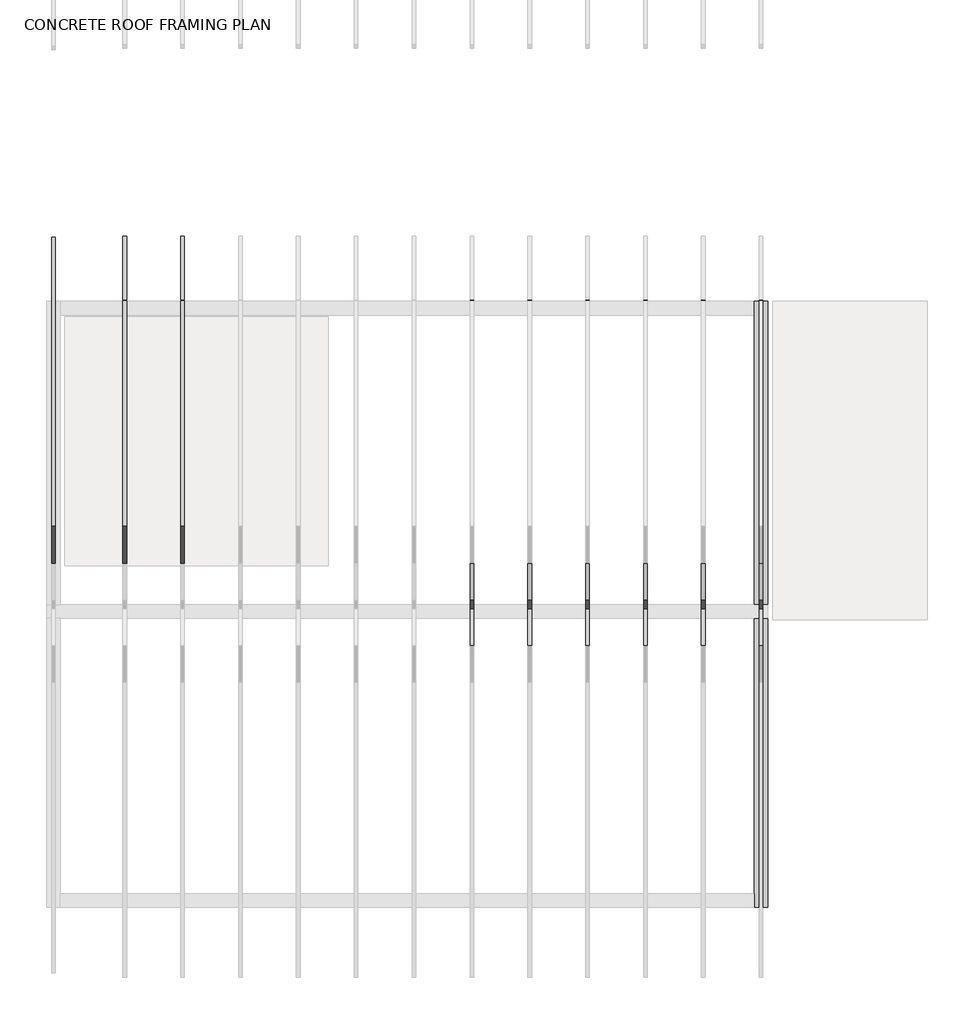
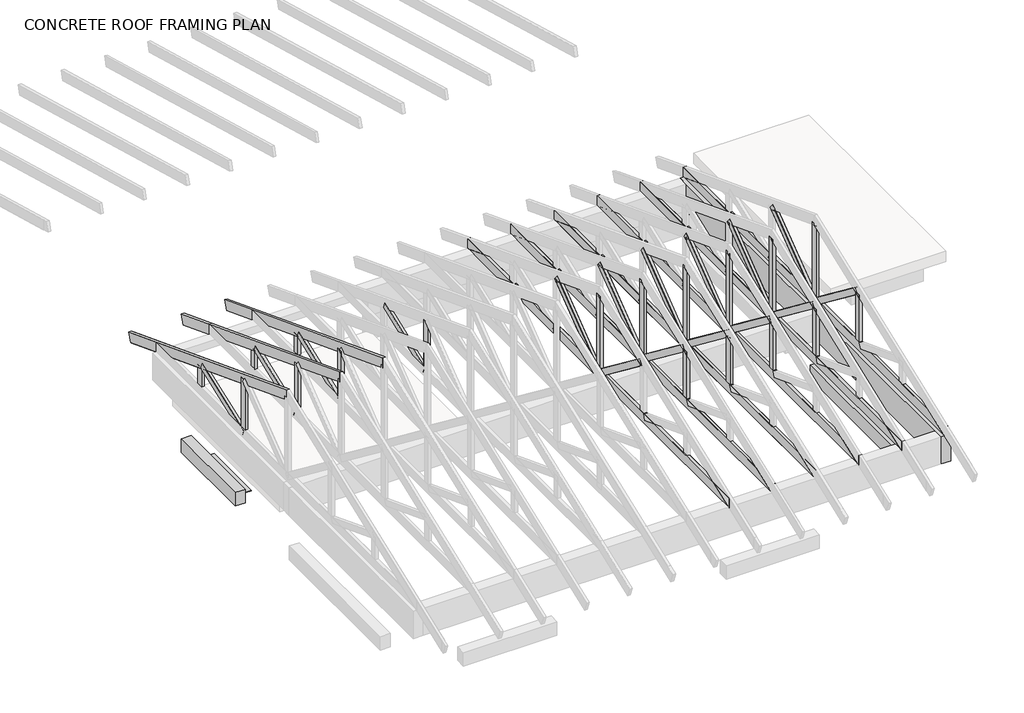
# One storey, part 4 of 6: 47 beams.
"""IFC4 building model written with IfcOpenShell, lengths in millimetres."""

from ifc_helpers import new_model, si_unit, frame, origin, place, context, project, spatial, polyline, outline, extrude, faceted_brep, element, save

model = new_model("IFC4")

# Units and contexts
model_context = context("Model", 3, world=origin())
ifc_project = project(units=[si_unit("LENGTHUNIT", "METRE", prefix="MILLI")], contexts=[model_context])

# Site, building, storey
site = spatial("IfcSite", under=ifc_project)
building = spatial("IfcBuilding", under=site)
storey = spatial("IfcBuildingStorey", under=building, Name="CONCRETE ROOF FRAMING PLAN", Elevation=3048.0)

# Beams
placement = place(None, origin())
element("IfcBeam", 1, ObjectType="Concrete-Rectangular Beam : 5 5/8 x 16", at=placement, inside=storey, context=model_context, shape_type="SweptSolid", body=[
    extrude(outline(polyline([(346.075, 5467.3499888), (346.075, 4552.9499888), (203.2, 4552.9499888), (203.2, 5467.3499888), (346.075, 5467.3499888)])), frame((0.0, 0.0, 2133.6), z_axis=(0.0, 0.0, 1.0), x_axis=(1.0, 0.0, 0.0)), (0.0, 0.0, 1.0), 2.0092442),
])
element("IfcBeam", 2, ObjectType="Concrete-Rectangular Beam : 5 5/8 x 16", at=placement, inside=storey, context=model_context, shape_type="Brep", body=[
    faceted_brep([(7467.6, 9.525, 3200.4), (7610.475, 9.525, 3200.4), (7610.475, 3052.7625, 3200.4), (7467.6, 3052.7625, 3200.4), (7467.6, 152.4, 3200.4), (7467.6, 9.525, 2794.0), (7467.6, 3052.7625, 2794.0), (7467.6, 152.4, 2794.0), (7610.475, 9.525, 2794.0), (7610.475, 3052.7625, 2794.0)], [[[0, 1, 2, 3, 4]], [[5, 0, 4, 3, 6, 7]], [[8, 5, 7, 6, 9]], [[1, 8, 9, 2]], [[1, 0, 5, 8]], [[3, 2, 9, 6]]]),
    faceted_brep([(7467.6, 6248.4, 3098.8), (7610.475, 6248.4, 3098.8), (7610.475, 6248.4, 2794.0), (7467.6, 6248.4, 2794.0), (7467.6, 6391.275, 3200.4), (7610.475, 6391.275, 3200.4), (7610.475, 6391.275, 3098.8), (7467.6, 6391.275, 3098.8), (7610.475, 3195.6375, 3200.4), (7467.6, 3195.6375, 3200.4), (7467.6, 3195.6375, 2794.0), (7610.475, 3195.6375, 2794.0), (7467.6, 6248.4, 3200.4)], [[[0, 1, 2, 3]], [[4, 5, 6, 7]], [[1, 0, 7, 6]], [[8, 9, 10, 11]], [[5, 4, 12, 9, 8]], [[4, 7, 0, 3, 10, 9, 12]], [[3, 2, 11, 10]], [[6, 5, 8, 11, 2, 1]]]),
])
element("IfcBeam", 3, ObjectType="Concrete-Rectangular Beam : 5 5/8 x 8", at=placement, inside=storey, context=model_context, shape_type="SweptSolid", body=[
    extrude(outline(polyline([(152.4, 4368.8), (9.525, 4368.8), (9.525, 5689.6), (152.4, 5689.6), (152.4, 4368.8)])), frame((0.0, 0.0, 2133.6), z_axis=(0.0, 0.0, 1.0), x_axis=(1.0, 0.0, 0.0)), (0.0, 0.0, 1.0), 203.2),
])
element("IfcBeam", 4, ObjectType="Concrete-Rectangular Beam : 5 5/8 x 8", at=placement, inside=storey, context=model_context, shape_type="SweptSolid", body=[
    extrude(outline(polyline([(7610.475, 1071.5625), (7467.6, 1071.5625), (7467.6, 3205.1625), (7610.475, 3205.1625), (7610.475, 1071.5625)])), frame((0.0, 0.0, 2133.6), z_axis=(0.0, 0.0, 1.0), x_axis=(1.0, 0.0, 0.0)), (0.0, 0.0, 1.0), 203.2),
])
element("IfcBeam", 5, ObjectType="Dimension Lumber : 2x4", at=placement, inside=storey, context=model_context, shape_type="SweptSolid", body=[
    extrude(outline(polyline([(61.9125, 4217.9874888), (61.9125, 4306.8874888), (100.0125, 4306.8874888), (100.0125, 4217.9874888), (61.9125, 4217.9874888)])), frame((0.0, 0.0, 3340.1), z_axis=(0.0, 0.0, 1.0), x_axis=(1.0, 0.0, 0.0)), (0.0, 0.0, 1.0), 742.95),
    extrude(outline(polyline([(4306.8874888, 3991.2909709), (4306.8874888, 3340.1), (4217.9874888, 3340.1), (4217.9874888, 4025.2587321), (4306.8874888, 3991.2909709)])), frame((61.9125, 0.0, 0.0), z_axis=(1.0, 0.0, 0.0), x_axis=(0.0, 1.0, 0.0)), (0.0, 0.0, 1.0), 38.1),
])
element("IfcBeam", 6, ObjectType="Dimension Lumber : 2x4", at=placement, inside=storey, context=model_context, shape_type="SweptSolid", body=[
    extrude(outline(polyline([(61.9125, 5281.6124888), (61.9125, 5370.5124888), (100.0125, 5370.5124888), (100.0125, 5281.6124888), (61.9125, 5281.6124888)])), frame((0.0, 0.0, 3340.1), z_axis=(0.0, 0.0, 1.0), x_axis=(1.0, 0.0, 0.0)), (0.0, 0.0, 1.0), 288.9658146),
    extrude(outline(polyline([(5370.5124888, 3584.8909709), (5370.5124888, 3340.1), (5281.6124888, 3340.1), (5281.6124888, 3618.8587321), (5370.5124888, 3584.8909709)])), frame((61.9125, 0.0, 0.0), z_axis=(1.0, 0.0, 0.0), x_axis=(0.0, 1.0, 0.0)), (0.0, 0.0, 1.0), 38.1),
])
element("IfcBeam", 7, ObjectType="Dimension Lumber : 2x4", at=placement, inside=storey, context=model_context, shape_type="SweptSolid", body=[
    extrude(outline(polyline([(0.0, -38.1), (0.0, 0.0), (1091.0373938, 0.0), (1091.0373938, -38.1), (0.0, -38.1)])), frame((61.9125, 4278.3027071, 3228.7277488), z_axis=(0.0, -0.3569227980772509, 0.934133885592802), x_axis=(0.0, 0.934133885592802, 0.3569227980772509)), (0.0, 0.0, 1.0), 88.9),
    extrude(outline(polyline([(4320.7113004, 3340.1), (5265.7472704, 3701.1883706), (5297.4777071, 3618.1438682), (4569.7847709, 3340.1), (4320.7113004, 3340.1)])), frame((61.9125, 0.0, 0.0), z_axis=(1.0, 0.0, 0.0), x_axis=(0.0, 1.0, 0.0)), (0.0, 0.0, 1.0), 38.1),
    extrude(outline(polyline([(4320.7113004, 3340.1), (5165.9438292, 3663.0545185), (5290.4805644, 3615.4703331), (4569.7847709, 3340.1), (4320.7113004, 3340.1)])), frame((61.9125, 0.0, 0.0), z_axis=(1.0, 0.0, 0.0), x_axis=(0.0, 1.0, 0.0)), (0.0, 0.0, 1.0), 38.1),
])
element("IfcBeam", 8, ObjectType="Dimension Lumber : 2x4", at=placement, inside=storey, context=model_context, shape_type="SweptSolid", body=[
    extrude(outline(polyline([(7519.9875, 3154.3624888), (7519.9875, 3243.2624888), (7558.0875, 3243.2624888), (7558.0875, 3154.3624888), (7519.9875, 3154.3624888)])), frame((0.0, 0.0, 3308.7927893), z_axis=(0.0, 0.0, 1.0), x_axis=(1.0, 0.0, 0.0)), (0.0, 0.0, 1.0), 1133.0716475),
    extrude(outline(polyline([(3243.2624888, 4397.6909709), (3243.2624888, 3308.7927893), (3154.3624888, 3308.7927893), (3154.3624888, 4431.6587321), (3243.2624888, 4397.6909709)])), frame((7519.9875, 0.0, 0.0), z_axis=(1.0, 0.0, 0.0), x_axis=(0.0, 1.0, 0.0)), (0.0, 0.0, 1.0), 38.1),
    extrude(outline(polyline([(3243.2624888, 4397.6909709), (3243.2624888, 3308.7927893), (3154.3624888, 3308.7927893), (3154.3624888, 4397.6909709), (3198.8124888, 4414.6748515), (3243.2624888, 4397.6909709)])), frame((7519.9875, 0.0, 0.0), z_axis=(1.0, 0.0, 0.0), x_axis=(0.0, 1.0, 0.0)), (0.0, 0.0, 1.0), 38.1),
    extrude(outline(polyline([(3243.2624888, 4397.6909709), (3243.2624888, 3340.1), (3154.3624888, 3340.1), (3154.3624888, 4397.6909709), (3198.8124888, 4414.6748515), (3243.2624888, 4397.6909709)])), frame((7519.9875, 0.0, 0.0), z_axis=(1.0, 0.0, 0.0), x_axis=(0.0, 1.0, 0.0)), (0.0, 0.0, 1.0), 38.1),
])
element("IfcBeam", 9, ObjectType="Dimension Lumber : 2x4", at=placement, inside=storey, context=model_context, shape_type="SweptSolid", body=[
    extrude(outline(polyline([(7519.9875, 2090.7374888), (7519.9875, 2179.6374888), (7558.0875, 2179.6374888), (7558.0875, 2090.7374888), (7519.9875, 2090.7374888)])), frame((0.0, 0.0, 3340.1), z_axis=(0.0, 0.0, 1.0), x_axis=(1.0, 0.0, 0.0)), (0.0, 0.0, 1.0), 702.294826),
    extrude(outline(polyline([(2179.6374888, 4025.2587321), (2179.6374888, 3340.1), (2090.7374888, 3340.1), (2090.7374888, 3991.2909709), (2179.6374888, 4025.2587321)])), frame((7519.9875, 0.0, 0.0), z_axis=(1.0, 0.0, 0.0), x_axis=(0.0, 1.0, 0.0)), (0.0, 0.0, 1.0), 38.1),
])
element("IfcBeam", 10, ObjectType="Dimension Lumber : 2x4", at=placement, inside=storey, context=model_context, shape_type="SweptSolid", body=[
    extrude(outline(polyline([(0.0, -38.1), (0.0, 0.0), (1268.1063806, 0.0), (1268.1063806, -38.1), (0.0, -38.1)])), frame((7519.9875, 3262.4051884, 3262.9032833), z_axis=(0.0, -0.6071859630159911, 0.7945597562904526), x_axis=(0.0, 0.7945597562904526, 0.6071859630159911)), (0.0, 0.0, 1.0), 88.9),
    extrude(outline(polyline([(3262.4051884, 3262.9032833), (3208.4263563, 3333.5396456), (4148.3995827, 4051.847544), (4246.0083389, 4014.552258), (3262.4051884, 3262.9032833)])), frame((7519.9875, 0.0, 0.0), z_axis=(1.0, 0.0, 0.0), x_axis=(0.0, 1.0, 0.0)), (0.0, 0.0, 1.0), 38.1),
    extrude(outline(polyline([(3217.011195, 3340.1), (4148.3995827, 4051.847544), (4246.0083389, 4014.552258), (3363.4243294, 3340.1), (3217.011195, 3340.1)])), frame((7519.9875, 0.0, 0.0), z_axis=(1.0, 0.0, 0.0), x_axis=(0.0, 1.0, 0.0)), (0.0, 0.0, 1.0), 38.1),
])
element("IfcBeam", 11, ObjectType="Dimension Lumber : 2x4", at=placement, inside=storey, context=model_context, shape_type="SweptSolid", body=[
    extrude(outline(polyline([(0.0, -38.1), (0.0, 0.0), (1278.704905, 0.0), (1278.704905, -38.1), (0.0, -38.1)])), frame((7519.9875, 2137.2208186, 4025.5532429), z_axis=(0.0, 0.6071859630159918, 0.7945597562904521), x_axis=(0.0, 0.7945597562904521, -0.6071859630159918)), (0.0, 0.0, 1.0), 88.9),
    extrude(outline(polyline([(2249.2253949, 4051.847544), (3207.2071084, 3319.7779361), (3153.2282763, 3249.1415737), (2151.6166386, 4014.552258), (2249.2253949, 4051.847544)])), frame((7519.9875, 0.0, 0.0), z_axis=(1.0, 0.0, 0.0), x_axis=(0.0, 1.0, 0.0)), (0.0, 0.0, 1.0), 38.1),
    extrude(outline(polyline([(2249.2253949, 4051.847544), (3180.6137825, 3340.1), (3034.2006481, 3340.1), (2151.6166386, 4014.552258), (2249.2253949, 4051.847544)])), frame((7519.9875, 0.0, 0.0), z_axis=(1.0, 0.0, 0.0), x_axis=(0.0, 1.0, 0.0)), (0.0, 0.0, 1.0), 38.1),
])
element("IfcBeam", 12, ObjectType="Dimension Lumber : 2x4", at=placement, inside=storey, context=model_context, shape_type="SweptSolid", body=[
    extrude(outline(polyline([(6910.3875, 3154.3624888), (6910.3875, 3243.2624888), (6948.4875, 3243.2624888), (6948.4875, 3154.3624888), (6910.3875, 3154.3624888)])), frame((0.0, 0.0, 3308.7927893), z_axis=(0.0, 0.0, 1.0), x_axis=(1.0, 0.0, 0.0)), (0.0, 0.0, 1.0), 1133.0716475),
    extrude(outline(polyline([(3243.2624888, 4397.6909709), (3243.2624888, 3308.7927893), (3154.3624888, 3308.7927893), (3154.3624888, 4431.6587321), (3243.2624888, 4397.6909709)])), frame((6910.3875, 0.0, 0.0), z_axis=(1.0, 0.0, 0.0), x_axis=(0.0, 1.0, 0.0)), (0.0, 0.0, 1.0), 38.1),
    extrude(outline(polyline([(3243.2624888, 4397.6909709), (3243.2624888, 3308.7927893), (3154.3624888, 3308.7927893), (3154.3624888, 4397.6909709), (3198.8124888, 4414.6748515), (3243.2624888, 4397.6909709)])), frame((6910.3875, 0.0, 0.0), z_axis=(1.0, 0.0, 0.0), x_axis=(0.0, 1.0, 0.0)), (0.0, 0.0, 1.0), 38.1),
    extrude(outline(polyline([(3243.2624888, 4397.6909709), (3243.2624888, 3340.1), (3154.3624888, 3340.1), (3154.3624888, 4397.6909709), (3198.8124888, 4414.6748515), (3243.2624888, 4397.6909709)])), frame((6910.3875, 0.0, 0.0), z_axis=(1.0, 0.0, 0.0), x_axis=(0.0, 1.0, 0.0)), (0.0, 0.0, 1.0), 38.1),
])
element("IfcBeam", 13, ObjectType="Dimension Lumber : 2x4", at=placement, inside=storey, context=model_context, shape_type="SweptSolid", body=[
    extrude(outline(polyline([(6910.3875, 2090.7374888), (6910.3875, 2179.6374888), (6948.4875, 2179.6374888), (6948.4875, 2090.7374888), (6910.3875, 2090.7374888)])), frame((0.0, 0.0, 3340.1), z_axis=(0.0, 0.0, 1.0), x_axis=(1.0, 0.0, 0.0)), (0.0, 0.0, 1.0), 702.294826),
    extrude(outline(polyline([(2179.6374888, 4025.2587321), (2179.6374888, 3340.1), (2090.7374888, 3340.1), (2090.7374888, 3991.2909709), (2179.6374888, 4025.2587321)])), frame((6910.3875, 0.0, 0.0), z_axis=(1.0, 0.0, 0.0), x_axis=(0.0, 1.0, 0.0)), (0.0, 0.0, 1.0), 38.1),
])
element("IfcBeam", 14, ObjectType="Dimension Lumber : 2x4", at=placement, inside=storey, context=model_context, shape_type="SweptSolid", body=[
    extrude(outline(polyline([(0.0, -38.1), (0.0, 0.0), (1268.1063806, 0.0), (1268.1063806, -38.1), (0.0, -38.1)])), frame((6910.3875, 3262.4051884, 3262.9032833), z_axis=(0.0, -0.6071859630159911, 0.7945597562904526), x_axis=(0.0, 0.7945597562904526, 0.6071859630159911)), (0.0, 0.0, 1.0), 88.9),
    extrude(outline(polyline([(3217.011195, 3340.1), (4216.012653, 4103.5160396), (4269.9914851, 4032.8796772), (3363.4243294, 3340.1), (3217.011195, 3340.1)])), frame((6910.3875, 0.0, 0.0), z_axis=(1.0, 0.0, 0.0), x_axis=(0.0, 1.0, 0.0)), (0.0, 0.0, 1.0), 38.1),
    extrude(outline(polyline([(3217.011195, 3340.1), (4148.3995827, 4051.847544), (4246.0083389, 4014.552258), (3363.4243294, 3340.1), (3217.011195, 3340.1)])), frame((6910.3875, 0.0, 0.0), z_axis=(1.0, 0.0, 0.0), x_axis=(0.0, 1.0, 0.0)), (0.0, 0.0, 1.0), 38.1),
])
element("IfcBeam", 15, ObjectType="Dimension Lumber : 2x4", at=placement, inside=storey, context=model_context, shape_type="SweptSolid", body=[
    extrude(outline(polyline([(0.0, -38.1), (0.0, 0.0), (1278.704905, 0.0), (1278.704905, -38.1), (0.0, -38.1)])), frame((6910.3875, 2137.2208186, 4025.5532429), z_axis=(0.0, 0.6071859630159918, 0.7945597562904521), x_axis=(0.0, 0.7945597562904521, -0.6071859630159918)), (0.0, 0.0, 1.0), 88.9),
    extrude(outline(polyline([(2249.2253949, 4051.847544), (3207.2071084, 3319.7779361), (3153.2282763, 3249.1415737), (2151.6166386, 4014.552258), (2249.2253949, 4051.847544)])), frame((6910.3875, 0.0, 0.0), z_axis=(1.0, 0.0, 0.0), x_axis=(0.0, 1.0, 0.0)), (0.0, 0.0, 1.0), 38.1),
    extrude(outline(polyline([(2249.2253949, 4051.847544), (3180.6137825, 3340.1), (3034.2006481, 3340.1), (2151.6166386, 4014.552258), (2249.2253949, 4051.847544)])), frame((6910.3875, 0.0, 0.0), z_axis=(1.0, 0.0, 0.0), x_axis=(0.0, 1.0, 0.0)), (0.0, 0.0, 1.0), 38.1),
])
element("IfcBeam", 16, ObjectType="Dimension Lumber : 2x4", at=placement, inside=storey, context=model_context, shape_type="SweptSolid", body=[
    extrude(outline(polyline([(6300.7875, 3154.3624888), (6300.7875, 3243.2624888), (6338.8875, 3243.2624888), (6338.8875, 3154.3624888), (6300.7875, 3154.3624888)])), frame((0.0, 0.0, 3308.7927893), z_axis=(0.0, 0.0, 1.0), x_axis=(1.0, 0.0, 0.0)), (0.0, 0.0, 1.0), 1133.0716475),
    extrude(outline(polyline([(3243.2624888, 4397.6909709), (3243.2624888, 3308.7927893), (3154.3624888, 3308.7927893), (3154.3624888, 4431.6587321), (3243.2624888, 4397.6909709)])), frame((6300.7875, 0.0, 0.0), z_axis=(1.0, 0.0, 0.0), x_axis=(0.0, 1.0, 0.0)), (0.0, 0.0, 1.0), 38.1),
    extrude(outline(polyline([(3243.2624888, 4397.6909709), (3243.2624888, 3308.7927893), (3154.3624888, 3308.7927893), (3154.3624888, 4397.6909709), (3198.8124888, 4414.6748515), (3243.2624888, 4397.6909709)])), frame((6300.7875, 0.0, 0.0), z_axis=(1.0, 0.0, 0.0), x_axis=(0.0, 1.0, 0.0)), (0.0, 0.0, 1.0), 38.1),
    extrude(outline(polyline([(3243.2624888, 4397.6909709), (3243.2624888, 3340.1), (3154.3624888, 3340.1), (3154.3624888, 4397.6909709), (3198.8124888, 4414.6748515), (3243.2624888, 4397.6909709)])), frame((6300.7875, 0.0, 0.0), z_axis=(1.0, 0.0, 0.0), x_axis=(0.0, 1.0, 0.0)), (0.0, 0.0, 1.0), 38.1),
])
element("IfcBeam", 17, ObjectType="Dimension Lumber : 2x4", at=placement, inside=storey, context=model_context, shape_type="SweptSolid", body=[
    extrude(outline(polyline([(6300.7875, 2090.7374888), (6300.7875, 2179.6374888), (6338.8875, 2179.6374888), (6338.8875, 2090.7374888), (6300.7875, 2090.7374888)])), frame((0.0, 0.0, 3340.1), z_axis=(0.0, 0.0, 1.0), x_axis=(1.0, 0.0, 0.0)), (0.0, 0.0, 1.0), 702.294826),
    extrude(outline(polyline([(2179.6374888, 4025.2587321), (2179.6374888, 3340.1), (2090.7374888, 3340.1), (2090.7374888, 3991.2909709), (2179.6374888, 4025.2587321)])), frame((6300.7875, 0.0, 0.0), z_axis=(1.0, 0.0, 0.0), x_axis=(0.0, 1.0, 0.0)), (0.0, 0.0, 1.0), 38.1),
])
element("IfcBeam", 18, ObjectType="Dimension Lumber : 2x4", at=placement, inside=storey, context=model_context, shape_type="SweptSolid", body=[
    extrude(outline(polyline([(0.0, -38.1), (0.0, 0.0), (1268.1063806, 0.0), (1268.1063806, -38.1), (0.0, -38.1)])), frame((6300.7875, 3262.4051884, 3262.9032833), z_axis=(0.0, -0.6071859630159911, 0.7945597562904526), x_axis=(0.0, 0.7945597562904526, 0.6071859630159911)), (0.0, 0.0, 1.0), 88.9),
    extrude(outline(polyline([(3217.011195, 3340.1), (4216.012653, 4103.5160396), (4269.9914851, 4032.8796772), (3363.4243294, 3340.1), (3217.011195, 3340.1)])), frame((6300.7875, 0.0, 0.0), z_axis=(1.0, 0.0, 0.0), x_axis=(0.0, 1.0, 0.0)), (0.0, 0.0, 1.0), 38.1),
    extrude(outline(polyline([(3217.011195, 3340.1), (4148.3995827, 4051.847544), (4246.0083389, 4014.552258), (3363.4243294, 3340.1), (3217.011195, 3340.1)])), frame((6300.7875, 0.0, 0.0), z_axis=(1.0, 0.0, 0.0), x_axis=(0.0, 1.0, 0.0)), (0.0, 0.0, 1.0), 38.1),
])
element("IfcBeam", 19, ObjectType="Dimension Lumber : 2x4", at=placement, inside=storey, context=model_context, shape_type="SweptSolid", body=[
    extrude(outline(polyline([(0.0, -38.1), (0.0, 0.0), (1278.704905, 0.0), (1278.704905, -38.1), (0.0, -38.1)])), frame((6300.7875, 2137.2208186, 4025.5532429), z_axis=(0.0, 0.6071859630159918, 0.7945597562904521), x_axis=(0.0, 0.7945597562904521, -0.6071859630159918)), (0.0, 0.0, 1.0), 88.9),
    extrude(outline(polyline([(2249.2253949, 4051.847544), (3207.2071084, 3319.7779361), (3153.2282763, 3249.1415737), (2151.6166386, 4014.552258), (2249.2253949, 4051.847544)])), frame((6300.7875, 0.0, 0.0), z_axis=(1.0, 0.0, 0.0), x_axis=(0.0, 1.0, 0.0)), (0.0, 0.0, 1.0), 38.1),
    extrude(outline(polyline([(2249.2253949, 4051.847544), (3180.6137825, 3340.1), (3034.2006481, 3340.1), (2151.6166386, 4014.552258), (2249.2253949, 4051.847544)])), frame((6300.7875, 0.0, 0.0), z_axis=(1.0, 0.0, 0.0), x_axis=(0.0, 1.0, 0.0)), (0.0, 0.0, 1.0), 38.1),
])
element("IfcBeam", 20, ObjectType="Dimension Lumber : 2x4", at=placement, inside=storey, context=model_context, shape_type="SweptSolid", body=[
    extrude(outline(polyline([(5691.1875, 3154.3624888), (5691.1875, 3243.2624888), (5729.2875, 3243.2624888), (5729.2875, 3154.3624888), (5691.1875, 3154.3624888)])), frame((0.0, 0.0, 3308.7927893), z_axis=(0.0, 0.0, 1.0), x_axis=(1.0, 0.0, 0.0)), (0.0, 0.0, 1.0), 1133.0716475),
    extrude(outline(polyline([(3243.2624888, 4397.6909709), (3243.2624888, 3308.7927893), (3154.3624888, 3308.7927893), (3154.3624888, 4431.6587321), (3243.2624888, 4397.6909709)])), frame((5691.1875, 0.0, 0.0), z_axis=(1.0, 0.0, 0.0), x_axis=(0.0, 1.0, 0.0)), (0.0, 0.0, 1.0), 38.1),
    extrude(outline(polyline([(3243.2624888, 4397.6909709), (3243.2624888, 3308.7927893), (3154.3624888, 3308.7927893), (3154.3624888, 4397.6909709), (3198.8124888, 4414.6748515), (3243.2624888, 4397.6909709)])), frame((5691.1875, 0.0, 0.0), z_axis=(1.0, 0.0, 0.0), x_axis=(0.0, 1.0, 0.0)), (0.0, 0.0, 1.0), 38.1),
    extrude(outline(polyline([(3243.2624888, 4397.6909709), (3243.2624888, 3340.1), (3154.3624888, 3340.1), (3154.3624888, 4397.6909709), (3198.8124888, 4414.6748515), (3243.2624888, 4397.6909709)])), frame((5691.1875, 0.0, 0.0), z_axis=(1.0, 0.0, 0.0), x_axis=(0.0, 1.0, 0.0)), (0.0, 0.0, 1.0), 38.1),
])
element("IfcBeam", 21, ObjectType="Dimension Lumber : 2x4", at=placement, inside=storey, context=model_context, shape_type="SweptSolid", body=[
    extrude(outline(polyline([(5691.1875, 2090.7374888), (5691.1875, 2179.6374888), (5729.2875, 2179.6374888), (5729.2875, 2090.7374888), (5691.1875, 2090.7374888)])), frame((0.0, 0.0, 3340.1), z_axis=(0.0, 0.0, 1.0), x_axis=(1.0, 0.0, 0.0)), (0.0, 0.0, 1.0), 702.294826),
    extrude(outline(polyline([(2179.6374888, 4025.2587321), (2179.6374888, 3340.1), (2090.7374888, 3340.1), (2090.7374888, 3991.2909709), (2179.6374888, 4025.2587321)])), frame((5691.1875, 0.0, 0.0), z_axis=(1.0, 0.0, 0.0), x_axis=(0.0, 1.0, 0.0)), (0.0, 0.0, 1.0), 38.1),
])
element("IfcBeam", 22, ObjectType="Dimension Lumber : 2x4", at=placement, inside=storey, context=model_context, shape_type="SweptSolid", body=[
    extrude(outline(polyline([(0.0, -38.1), (0.0, 0.0), (1268.1063806, 0.0), (1268.1063806, -38.1), (0.0, -38.1)])), frame((5691.1875, 3262.4051884, 3262.9032833), z_axis=(0.0, -0.6071859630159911, 0.7945597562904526), x_axis=(0.0, 0.7945597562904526, 0.6071859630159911)), (0.0, 0.0, 1.0), 88.9),
    extrude(outline(polyline([(3217.011195, 3340.1), (4216.012653, 4103.5160396), (4269.9914851, 4032.8796772), (3363.4243294, 3340.1), (3217.011195, 3340.1)])), frame((5691.1875, 0.0, 0.0), z_axis=(1.0, 0.0, 0.0), x_axis=(0.0, 1.0, 0.0)), (0.0, 0.0, 1.0), 38.1),
    extrude(outline(polyline([(3217.011195, 3340.1), (4148.3995827, 4051.847544), (4246.0083389, 4014.552258), (3363.4243294, 3340.1), (3217.011195, 3340.1)])), frame((5691.1875, 0.0, 0.0), z_axis=(1.0, 0.0, 0.0), x_axis=(0.0, 1.0, 0.0)), (0.0, 0.0, 1.0), 38.1),
])
element("IfcBeam", 23, ObjectType="Dimension Lumber : 2x4", at=placement, inside=storey, context=model_context, shape_type="SweptSolid", body=[
    extrude(outline(polyline([(0.0, -38.1), (0.0, 0.0), (1278.704905, 0.0), (1278.704905, -38.1), (0.0, -38.1)])), frame((5691.1875, 2137.2208186, 4025.5532429), z_axis=(0.0, 0.6071859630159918, 0.7945597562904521), x_axis=(0.0, 0.7945597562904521, -0.6071859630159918)), (0.0, 0.0, 1.0), 88.9),
    extrude(outline(polyline([(2249.2253949, 4051.847544), (3207.2071084, 3319.7779361), (3153.2282763, 3249.1415737), (2151.6166386, 4014.552258), (2249.2253949, 4051.847544)])), frame((5691.1875, 0.0, 0.0), z_axis=(1.0, 0.0, 0.0), x_axis=(0.0, 1.0, 0.0)), (0.0, 0.0, 1.0), 38.1),
    extrude(outline(polyline([(2249.2253949, 4051.847544), (3180.6137825, 3340.1), (3034.2006481, 3340.1), (2151.6166386, 4014.552258), (2249.2253949, 4051.847544)])), frame((5691.1875, 0.0, 0.0), z_axis=(1.0, 0.0, 0.0), x_axis=(0.0, 1.0, 0.0)), (0.0, 0.0, 1.0), 38.1),
])
element("IfcBeam", 24, ObjectType="Dimension Lumber : 2x4", at=placement, inside=storey, context=model_context, shape_type="SweptSolid", body=[
    extrude(outline(polyline([(5081.5875, 3154.3624888), (5081.5875, 3243.2624888), (5119.6875, 3243.2624888), (5119.6875, 3154.3624888), (5081.5875, 3154.3624888)])), frame((0.0, 0.0, 3308.7927893), z_axis=(0.0, 0.0, 1.0), x_axis=(1.0, 0.0, 0.0)), (0.0, 0.0, 1.0), 1133.0716475),
    extrude(outline(polyline([(3243.2624888, 4397.6909709), (3243.2624888, 3308.7927893), (3154.3624888, 3308.7927893), (3154.3624888, 4431.6587321), (3243.2624888, 4397.6909709)])), frame((5081.5875, 0.0, 0.0), z_axis=(1.0, 0.0, 0.0), x_axis=(0.0, 1.0, 0.0)), (0.0, 0.0, 1.0), 38.1),
    extrude(outline(polyline([(3243.2624888, 4397.6909709), (3243.2624888, 3308.7927893), (3154.3624888, 3308.7927893), (3154.3624888, 4397.6909709), (3198.8124888, 4414.6748515), (3243.2624888, 4397.6909709)])), frame((5081.5875, 0.0, 0.0), z_axis=(1.0, 0.0, 0.0), x_axis=(0.0, 1.0, 0.0)), (0.0, 0.0, 1.0), 38.1),
    extrude(outline(polyline([(3243.2624888, 4397.6909709), (3243.2624888, 3340.1), (3154.3624888, 3340.1), (3154.3624888, 4397.6909709), (3198.8124888, 4414.6748515), (3243.2624888, 4397.6909709)])), frame((5081.5875, 0.0, 0.0), z_axis=(1.0, 0.0, 0.0), x_axis=(0.0, 1.0, 0.0)), (0.0, 0.0, 1.0), 38.1),
])
element("IfcBeam", 25, ObjectType="Dimension Lumber : 2x4", at=placement, inside=storey, context=model_context, shape_type="SweptSolid", body=[
    extrude(outline(polyline([(5081.5875, 2090.7374888), (5081.5875, 2179.6374888), (5119.6875, 2179.6374888), (5119.6875, 2090.7374888), (5081.5875, 2090.7374888)])), frame((0.0, 0.0, 3340.1), z_axis=(0.0, 0.0, 1.0), x_axis=(1.0, 0.0, 0.0)), (0.0, 0.0, 1.0), 702.294826),
    extrude(outline(polyline([(2179.6374888, 4025.2587321), (2179.6374888, 3340.1), (2090.7374888, 3340.1), (2090.7374888, 3991.2909709), (2179.6374888, 4025.2587321)])), frame((5081.5875, 0.0, 0.0), z_axis=(1.0, 0.0, 0.0), x_axis=(0.0, 1.0, 0.0)), (0.0, 0.0, 1.0), 38.1),
])
element("IfcBeam", 26, ObjectType="Dimension Lumber : 2x4", at=placement, inside=storey, context=model_context, shape_type="SweptSolid", body=[
    extrude(outline(polyline([(0.0, -38.1), (0.0, 0.0), (1268.1063806, 0.0), (1268.1063806, -38.1), (0.0, -38.1)])), frame((5081.5875, 3262.4051884, 3262.9032833), z_axis=(0.0, -0.6071859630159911, 0.7945597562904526), x_axis=(0.0, 0.7945597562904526, 0.6071859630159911)), (0.0, 0.0, 1.0), 88.9),
    extrude(outline(polyline([(3217.011195, 3340.1), (4216.012653, 4103.5160396), (4269.9914851, 4032.8796772), (3363.4243294, 3340.1), (3217.011195, 3340.1)])), frame((5081.5875, 0.0, 0.0), z_axis=(1.0, 0.0, 0.0), x_axis=(0.0, 1.0, 0.0)), (0.0, 0.0, 1.0), 38.1),
    extrude(outline(polyline([(3217.011195, 3340.1), (4148.3995827, 4051.847544), (4246.0083389, 4014.552258), (3363.4243294, 3340.1), (3217.011195, 3340.1)])), frame((5081.5875, 0.0, 0.0), z_axis=(1.0, 0.0, 0.0), x_axis=(0.0, 1.0, 0.0)), (0.0, 0.0, 1.0), 38.1),
])
element("IfcBeam", 27, ObjectType="Dimension Lumber : 2x4", at=placement, inside=storey, context=model_context, shape_type="SweptSolid", body=[
    extrude(outline(polyline([(0.0, -38.1), (0.0, 0.0), (1278.704905, 0.0), (1278.704905, -38.1), (0.0, -38.1)])), frame((5081.5875, 2137.2208186, 4025.5532429), z_axis=(0.0, 0.6071859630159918, 0.7945597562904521), x_axis=(0.0, 0.7945597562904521, -0.6071859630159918)), (0.0, 0.0, 1.0), 88.9),
    extrude(outline(polyline([(2249.2253949, 4051.847544), (3207.2071084, 3319.7779361), (3153.2282763, 3249.1415737), (2151.6166386, 4014.552258), (2249.2253949, 4051.847544)])), frame((5081.5875, 0.0, 0.0), z_axis=(1.0, 0.0, 0.0), x_axis=(0.0, 1.0, 0.0)), (0.0, 0.0, 1.0), 38.1),
    extrude(outline(polyline([(2249.2253949, 4051.847544), (3180.6137825, 3340.1), (3034.2006481, 3340.1), (2151.6166386, 4014.552258), (2249.2253949, 4051.847544)])), frame((5081.5875, 0.0, 0.0), z_axis=(1.0, 0.0, 0.0), x_axis=(0.0, 1.0, 0.0)), (0.0, 0.0, 1.0), 38.1),
])
element("IfcBeam", 28, ObjectType="Dimension Lumber : 2x4", at=placement, inside=storey, context=model_context, shape_type="SweptSolid", body=[
    extrude(outline(polyline([(4471.9875, 3154.3624888), (4471.9875, 3243.2624888), (4510.0875, 3243.2624888), (4510.0875, 3154.3624888), (4471.9875, 3154.3624888)])), frame((0.0, 0.0, 3308.7927893), z_axis=(0.0, 0.0, 1.0), x_axis=(1.0, 0.0, 0.0)), (0.0, 0.0, 1.0), 1133.0716475),
    extrude(outline(polyline([(3243.2624888, 4397.6909709), (3243.2624888, 3308.7927893), (3154.3624888, 3308.7927893), (3154.3624888, 4431.6587321), (3243.2624888, 4397.6909709)])), frame((4471.9875, 0.0, 0.0), z_axis=(1.0, 0.0, 0.0), x_axis=(0.0, 1.0, 0.0)), (0.0, 0.0, 1.0), 38.1),
    extrude(outline(polyline([(3243.2624888, 4397.6909709), (3243.2624888, 3308.7927893), (3154.3624888, 3308.7927893), (3154.3624888, 4397.6909709), (3198.8124888, 4414.6748515), (3243.2624888, 4397.6909709)])), frame((4471.9875, 0.0, 0.0), z_axis=(1.0, 0.0, 0.0), x_axis=(0.0, 1.0, 0.0)), (0.0, 0.0, 1.0), 38.1),
    extrude(outline(polyline([(3243.2624888, 4397.6909709), (3243.2624888, 3340.1), (3154.3624888, 3340.1), (3154.3624888, 4397.6909709), (3198.8124888, 4414.6748515), (3243.2624888, 4397.6909709)])), frame((4471.9875, 0.0, 0.0), z_axis=(1.0, 0.0, 0.0), x_axis=(0.0, 1.0, 0.0)), (0.0, 0.0, 1.0), 38.1),
])
element("IfcBeam", 29, ObjectType="Dimension Lumber : 2x4", at=placement, inside=storey, context=model_context, shape_type="SweptSolid", body=[
    extrude(outline(polyline([(0.0, -38.1), (0.0, 0.0), (1268.1063806, 0.0), (1268.1063806, -38.1), (0.0, -38.1)])), frame((4471.9875, 3262.4051884, 3262.9032833), z_axis=(0.0, -0.6071859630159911, 0.7945597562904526), x_axis=(0.0, 0.7945597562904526, 0.6071859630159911)), (0.0, 0.0, 1.0), 88.9),
    extrude(outline(polyline([(3217.011195, 3340.1), (4216.012653, 4103.5160396), (4269.9914851, 4032.8796772), (3363.4243294, 3340.1), (3217.011195, 3340.1)])), frame((4471.9875, 0.0, 0.0), z_axis=(1.0, 0.0, 0.0), x_axis=(0.0, 1.0, 0.0)), (0.0, 0.0, 1.0), 38.1),
    extrude(outline(polyline([(3217.011195, 3340.1), (4148.3995827, 4051.847544), (4246.0083389, 4014.552258), (3363.4243294, 3340.1), (3217.011195, 3340.1)])), frame((4471.9875, 0.0, 0.0), z_axis=(1.0, 0.0, 0.0), x_axis=(0.0, 1.0, 0.0)), (0.0, 0.0, 1.0), 38.1),
])
element("IfcBeam", 30, ObjectType="Dimension Lumber : 2x4", at=placement, inside=storey, context=model_context, shape_type="SweptSolid", body=[
    extrude(outline(polyline([(0.0, -38.1), (0.0, 0.0), (1278.704905, 0.0), (1278.704905, -38.1), (0.0, -38.1)])), frame((4471.9875, 2137.2208186, 4025.5532429), z_axis=(0.0, 0.6071859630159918, 0.7945597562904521), x_axis=(0.0, 0.7945597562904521, -0.6071859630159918)), (0.0, 0.0, 1.0), 88.9),
    extrude(outline(polyline([(2249.2253949, 4051.847544), (3207.2071084, 3319.7779361), (3153.2282763, 3249.1415737), (2151.6166386, 4014.552258), (2249.2253949, 4051.847544)])), frame((4471.9875, 0.0, 0.0), z_axis=(1.0, 0.0, 0.0), x_axis=(0.0, 1.0, 0.0)), (0.0, 0.0, 1.0), 38.1),
    extrude(outline(polyline([(2249.2253949, 4051.847544), (3180.6137825, 3340.1), (3034.2006481, 3340.1), (2151.6166386, 4014.552258), (2249.2253949, 4051.847544)])), frame((4471.9875, 0.0, 0.0), z_axis=(1.0, 0.0, 0.0), x_axis=(0.0, 1.0, 0.0)), (0.0, 0.0, 1.0), 38.1),
])
element("IfcBeam", 31, ObjectType="Dimension Lumber : 2x4", at=placement, inside=storey, context=model_context, shape_type="SweptSolid", body=[
    extrude(outline(polyline([(2643.1875, 4217.9874888), (2643.1875, 4306.8874888), (2681.2875, 4306.8874888), (2681.2875, 4217.9874888), (2643.1875, 4217.9874888)])), frame((0.0, 0.0, 3340.1), z_axis=(0.0, 0.0, 1.0), x_axis=(1.0, 0.0, 0.0)), (0.0, 0.0, 1.0), 702.6647896),
])
element("IfcBeam", 32, ObjectType="Dimension Lumber : 2x4", at=placement, inside=storey, context=model_context, shape_type="SweptSolid", body=[
    extrude(outline(polyline([(0.0, -38.1), (0.0, 0.0), (1043.4532084, 0.0), (1043.4532084, -38.1), (0.0, -38.1)])), frame((2643.1875, 4322.7527071, 3245.7116294), z_axis=(0.0, -0.3569227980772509, 0.934133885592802), x_axis=(0.0, 0.934133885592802, 0.3569227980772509)), (0.0, 0.0, 1.0), 88.9),
])
element("IfcBeam", 33, ObjectType="Dimension Lumber : 2x4", at=placement, inside=storey, context=model_context, shape_type="SweptSolid", body=[
    extrude(outline(polyline([(1423.9875, 4217.9874888), (1423.9875, 4306.8874888), (1462.0875, 4306.8874888), (1462.0875, 4217.9874888), (1423.9875, 4217.9874888)])), frame((0.0, 0.0, 3340.1), z_axis=(0.0, 0.0, 1.0), x_axis=(1.0, 0.0, 0.0)), (0.0, 0.0, 1.0), 702.6647896),
])
element("IfcBeam", 34, ObjectType="Dimension Lumber : 2x4", at=placement, inside=storey, context=model_context, shape_type="SweptSolid", body=[
    extrude(outline(polyline([(1423.9875, 5281.6124888), (1423.9875, 5370.5124888), (1462.0875, 5370.5124888), (1462.0875, 5281.6124888), (1423.9875, 5281.6124888)])), frame((0.0, 0.0, 3340.1), z_axis=(0.0, 0.0, 1.0), x_axis=(1.0, 0.0, 0.0)), (0.0, 0.0, 1.0), 288.9658146),
])
element("IfcBeam", 35, ObjectType="Dimension Lumber : 2x4", at=placement, inside=storey, context=model_context, shape_type="SweptSolid", body=[
    extrude(outline(polyline([(0.0, -38.1), (0.0, 0.0), (1043.4532084, 0.0), (1043.4532084, -38.1), (0.0, -38.1)])), frame((1423.9875, 4322.7527071, 3245.7116294), z_axis=(0.0, -0.3569227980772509, 0.934133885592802), x_axis=(0.0, 0.934133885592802, 0.3569227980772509)), (0.0, 0.0, 1.0), 88.9),
])
element("IfcBeam", 36, ObjectType="Dimension Lumber : 2x4", at=placement, inside=storey, context=model_context, shape_type="SweptSolid", body=[
    extrude(outline(polyline([(814.3875, 4217.9874888), (814.3875, 4306.8874888), (852.4875, 4306.8874888), (852.4875, 4217.9874888), (814.3875, 4217.9874888)])), frame((0.0, 0.0, 3340.1), z_axis=(0.0, 0.0, 1.0), x_axis=(1.0, 0.0, 0.0)), (0.0, 0.0, 1.0), 702.6647896),
])
element("IfcBeam", 37, ObjectType="Dimension Lumber : 2x4", at=placement, inside=storey, context=model_context, shape_type="SweptSolid", body=[
    extrude(outline(polyline([(814.3875, 5281.6124888), (814.3875, 5370.5124888), (852.4875, 5370.5124888), (852.4875, 5281.6124888), (814.3875, 5281.6124888)])), frame((0.0, 0.0, 3340.1), z_axis=(0.0, 0.0, 1.0), x_axis=(1.0, 0.0, 0.0)), (0.0, 0.0, 1.0), 288.9658146),
])
element("IfcBeam", 38, ObjectType="Dimension Lumber : 2x4", at=placement, inside=storey, context=model_context, shape_type="SweptSolid", body=[
    extrude(outline(polyline([(0.0, -38.1), (0.0, 0.0), (1043.4532084, 0.0), (1043.4532084, -38.1), (0.0, -38.1)])), frame((814.3875, 4322.7527071, 3245.7116294), z_axis=(0.0, -0.3569227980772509, 0.934133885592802), x_axis=(0.0, 0.934133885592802, 0.3569227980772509)), (0.0, 0.0, 1.0), 88.9),
])
element("IfcBeam", 39, ObjectType="Dimension Lumber : 2x6", at=placement, inside=storey, context=model_context, shape_type="SweptSolid", body=[
    extrude(outline(polyline([(3198.8124888, 4414.6748515), (3198.8124888, 4564.2251485), (7065.3244935, 3086.8713079), (7015.4623786, 2956.3728041), (3198.8124888, 4414.6748515)])), frame((61.9125, 0.0, 0.0), z_axis=(1.0, 0.0, 0.0), x_axis=(0.0, 1.0, 0.0)), (0.0, 0.0, 1.0), 38.1),
    extrude(outline(polyline([(3198.8124888, 4414.6748515), (3198.8124888, 4564.2251485), (7000.875, 3111.496786), (7000.875, 2961.946489), (3198.8124888, 4414.6748515)])), frame((61.9125, 0.0, 0.0), z_axis=(1.0, 0.0, 0.0), x_axis=(0.0, 1.0, 0.0)), (0.0, 0.0, 1.0), 38.1),
])
element("IfcBeam", 40, ObjectType="Dimension Lumber : 2x6", at=placement, inside=storey, context=model_context, shape_type="SweptSolid", body=[
    extrude(outline(polyline([(7558.0875, -4.9525483), (7519.9875, -4.9525483), (7519.9875, 6402.5775258), (7558.0875, 6402.5775258), (7558.0875, -4.9525483)])), frame((0.0, 0.0, 3200.4), z_axis=(0.0, 0.0, 1.0), x_axis=(1.0, 0.0, 0.0)), (0.0, 0.0, 1.0), 139.7),
    extrude(outline(polyline([(-4.9525483, 3200.4), (-4.9525483, 3340.1), (6011.176358, 3340.1), (6376.7974517, 3200.4), (-4.9525483, 3200.4)])), frame((7519.9875, 0.0, 0.0), z_axis=(1.0, 0.0, 0.0), x_axis=(0.0, 1.0, 0.0)), (0.0, 0.0, 1.0), 38.1),
    extrude(outline(polyline([(386.4486196, 3340.1), (6011.176358, 3340.1), (6376.7974517, 3200.4), (20.8275258, 3200.4), (386.4486196, 3340.1)])), frame((7519.9875, 0.0, 0.0), z_axis=(1.0, 0.0, 0.0), x_axis=(0.0, 1.0, 0.0)), (0.0, 0.0, 1.0), 38.1),
])
element("IfcBeam", 41, ObjectType="Dimension Lumber : 2x6", at=placement, inside=storey, context=model_context, shape_type="SweptSolid", body=[
    extrude(outline(polyline([(6948.4875, -4.9525483), (6910.3875, -4.9525483), (6910.3875, 6402.5775258), (6948.4875, 6402.5775258), (6948.4875, -4.9525483)])), frame((0.0, 0.0, 3200.4), z_axis=(0.0, 0.0, 1.0), x_axis=(1.0, 0.0, 0.0)), (0.0, 0.0, 1.0), 139.7),
    extrude(outline(polyline([(386.4486196, 3340.1), (6402.5775258, 3340.1), (6402.5775258, 3200.4), (20.8275258, 3200.4), (386.4486196, 3340.1)])), frame((6910.3875, 0.0, 0.0), z_axis=(1.0, 0.0, 0.0), x_axis=(0.0, 1.0, 0.0)), (0.0, 0.0, 1.0), 38.1),
    extrude(outline(polyline([(386.4486196, 3340.1), (6011.176358, 3340.1), (6376.7974517, 3200.4), (20.8275258, 3200.4), (386.4486196, 3340.1)])), frame((6910.3875, 0.0, 0.0), z_axis=(1.0, 0.0, 0.0), x_axis=(0.0, 1.0, 0.0)), (0.0, 0.0, 1.0), 38.1),
])
element("IfcBeam", 42, ObjectType="Dimension Lumber : 2x6", at=placement, inside=storey, context=model_context, shape_type="SweptSolid", body=[
    extrude(outline(polyline([(6338.8875, -4.9525483), (6300.7875, -4.9525483), (6300.7875, 6402.5775258), (6338.8875, 6402.5775258), (6338.8875, -4.9525483)])), frame((0.0, 0.0, 3200.4), z_axis=(0.0, 0.0, 1.0), x_axis=(1.0, 0.0, 0.0)), (0.0, 0.0, 1.0), 139.7),
    extrude(outline(polyline([(386.4486196, 3340.1), (6402.5775258, 3340.1), (6402.5775258, 3200.4), (20.8275258, 3200.4), (386.4486196, 3340.1)])), frame((6300.7875, 0.0, 0.0), z_axis=(1.0, 0.0, 0.0), x_axis=(0.0, 1.0, 0.0)), (0.0, 0.0, 1.0), 38.1),
    extrude(outline(polyline([(386.4486196, 3340.1), (6011.176358, 3340.1), (6376.7974517, 3200.4), (20.8275258, 3200.4), (386.4486196, 3340.1)])), frame((6300.7875, 0.0, 0.0), z_axis=(1.0, 0.0, 0.0), x_axis=(0.0, 1.0, 0.0)), (0.0, 0.0, 1.0), 38.1),
])
element("IfcBeam", 43, ObjectType="Dimension Lumber : 2x6", at=placement, inside=storey, context=model_context, shape_type="SweptSolid", body=[
    extrude(outline(polyline([(5729.2875, -4.9525483), (5691.1875, -4.9525483), (5691.1875, 6402.5775258), (5729.2875, 6402.5775258), (5729.2875, -4.9525483)])), frame((0.0, 0.0, 3200.4), z_axis=(0.0, 0.0, 1.0), x_axis=(1.0, 0.0, 0.0)), (0.0, 0.0, 1.0), 139.7),
    extrude(outline(polyline([(386.4486196, 3340.1), (6402.5775258, 3340.1), (6402.5775258, 3200.4), (20.8275258, 3200.4), (386.4486196, 3340.1)])), frame((5691.1875, 0.0, 0.0), z_axis=(1.0, 0.0, 0.0), x_axis=(0.0, 1.0, 0.0)), (0.0, 0.0, 1.0), 38.1),
    extrude(outline(polyline([(386.4486196, 3340.1), (6011.176358, 3340.1), (6376.7974517, 3200.4), (20.8275258, 3200.4), (386.4486196, 3340.1)])), frame((5691.1875, 0.0, 0.0), z_axis=(1.0, 0.0, 0.0), x_axis=(0.0, 1.0, 0.0)), (0.0, 0.0, 1.0), 38.1),
])
element("IfcBeam", 44, ObjectType="Dimension Lumber : 2x6", at=placement, inside=storey, context=model_context, shape_type="SweptSolid", body=[
    extrude(outline(polyline([(5119.6875, -4.9525483), (5081.5875, -4.9525483), (5081.5875, 6402.5775258), (5119.6875, 6402.5775258), (5119.6875, -4.9525483)])), frame((0.0, 0.0, 3200.4), z_axis=(0.0, 0.0, 1.0), x_axis=(1.0, 0.0, 0.0)), (0.0, 0.0, 1.0), 139.7),
    extrude(outline(polyline([(386.4486196, 3340.1), (6402.5775258, 3340.1), (6402.5775258, 3200.4), (20.8275258, 3200.4), (386.4486196, 3340.1)])), frame((5081.5875, 0.0, 0.0), z_axis=(1.0, 0.0, 0.0), x_axis=(0.0, 1.0, 0.0)), (0.0, 0.0, 1.0), 38.1),
    extrude(outline(polyline([(386.4486196, 3340.1), (6011.176358, 3340.1), (6376.7974517, 3200.4), (20.8275258, 3200.4), (386.4486196, 3340.1)])), frame((5081.5875, 0.0, 0.0), z_axis=(1.0, 0.0, 0.0), x_axis=(0.0, 1.0, 0.0)), (0.0, 0.0, 1.0), 38.1),
])
element("IfcBeam", 45, ObjectType="Dimension Lumber : 2x6", at=placement, inside=storey, context=model_context, shape_type="SweptSolid", body=[
    extrude(outline(polyline([(4510.0875, -4.9525483), (4471.9875, -4.9525483), (4471.9875, 6402.5775258), (4510.0875, 6402.5775258), (4510.0875, -4.9525483)])), frame((0.0, 0.0, 3200.4), z_axis=(0.0, 0.0, 1.0), x_axis=(1.0, 0.0, 0.0)), (0.0, 0.0, 1.0), 139.7),
    extrude(outline(polyline([(386.4486196, 3340.1), (6402.5775258, 3340.1), (6402.5775258, 3200.4), (20.8275258, 3200.4), (386.4486196, 3340.1)])), frame((4471.9875, 0.0, 0.0), z_axis=(1.0, 0.0, 0.0), x_axis=(0.0, 1.0, 0.0)), (0.0, 0.0, 1.0), 38.1),
    extrude(outline(polyline([(386.4486196, 3340.1), (6011.176358, 3340.1), (6376.7974517, 3200.4), (20.8275258, 3200.4), (386.4486196, 3340.1)])), frame((4471.9875, 0.0, 0.0), z_axis=(1.0, 0.0, 0.0), x_axis=(0.0, 1.0, 0.0)), (0.0, 0.0, 1.0), 38.1),
])
element("IfcBeam", 46, ObjectType="Dimension Lumber : 2x6", at=placement, inside=storey, context=model_context, shape_type="SweptSolid", body=[
    extrude(outline(polyline([(3198.8124888, 4414.6748515), (3198.8124888, 4564.2251485), (7077.1431246, 3082.3555324), (7027.2810097, 2951.8570286), (3198.8124888, 4414.6748515)])), frame((1423.9875, 0.0, 0.0), z_axis=(1.0, 0.0, 0.0), x_axis=(0.0, 1.0, 0.0)), (0.0, 0.0, 1.0), 38.1),
])
element("IfcBeam", 47, ObjectType="Dimension Lumber : 2x6", at=placement, inside=storey, context=model_context, shape_type="SweptSolid", body=[
    extrude(outline(polyline([(3198.8124888, 4414.6748515), (3198.8124888, 4564.2251485), (7077.1431246, 3082.3555324), (7027.2810097, 2951.8570286), (3198.8124888, 4414.6748515)])), frame((814.3875, 0.0, 0.0), z_axis=(1.0, 0.0, 0.0), x_axis=(0.0, 1.0, 0.0)), (0.0, 0.0, 1.0), 38.1),
])

save(model, "model.ifc")
